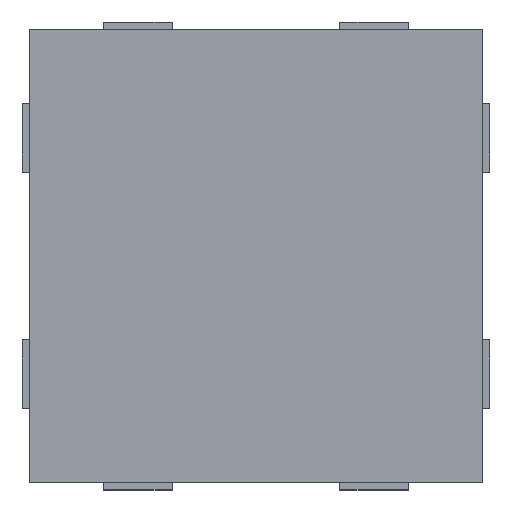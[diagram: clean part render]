
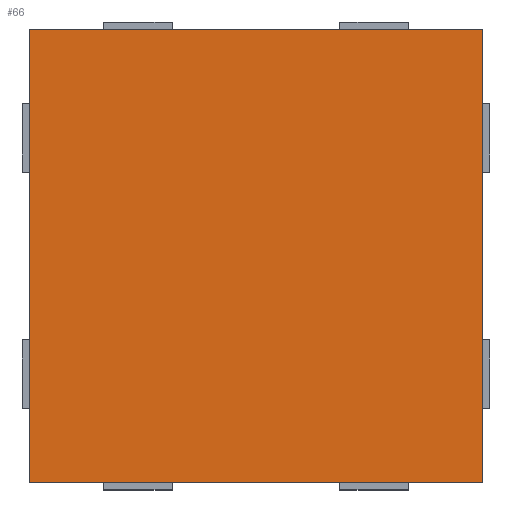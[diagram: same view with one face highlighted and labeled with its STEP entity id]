
A CAD part, top view. The second image highlights one B-rep face of the part: STEP entity #66.
In plain terms, the highlighted planar face has unit normal (0, 0, 1).
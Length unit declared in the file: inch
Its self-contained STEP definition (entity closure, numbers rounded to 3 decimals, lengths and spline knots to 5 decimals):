
#66=ADVANCED_FACE('',(#112),#716,.T.);
#112=FACE_OUTER_BOUND('',#166,.T.);
#166=EDGE_LOOP('',(#376,#377,#378,#379));
#376=ORIENTED_EDGE('',*,*,#491,.F.);
#377=ORIENTED_EDGE('',*,*,#488,.F.);
#378=ORIENTED_EDGE('',*,*,#485,.F.);
#379=ORIENTED_EDGE('',*,*,#482,.F.);
#482=EDGE_CURVE('',#666,#667,#590,.T.);
#485=EDGE_CURVE('',#667,#669,#593,.T.);
#488=EDGE_CURVE('',#669,#671,#596,.T.);
#491=EDGE_CURVE('',#671,#666,#599,.T.);
#590=B_SPLINE_CURVE_WITH_KNOTS('',1,(#1221,#1222),.UNSPECIFIED.,.F.,.F.,
(2,2),(0.,23.),.UNSPECIFIED.);
#593=B_SPLINE_CURVE_WITH_KNOTS('',1,(#1227,#1228),.UNSPECIFIED.,.F.,.F.,
(2,2),(0.,23.),.UNSPECIFIED.);
#596=B_SPLINE_CURVE_WITH_KNOTS('',1,(#1233,#1234),.UNSPECIFIED.,.F.,.F.,
(2,2),(0.,23.),.UNSPECIFIED.);
#599=B_SPLINE_CURVE_WITH_KNOTS('',1,(#1239,#1240),.UNSPECIFIED.,.F.,.F.,
(2,2),(0.,23.),.UNSPECIFIED.);
#666=VERTEX_POINT('',#1019);
#667=VERTEX_POINT('',#1020);
#669=VERTEX_POINT('',#1022);
#671=VERTEX_POINT('',#1024);
#716=PLANE('',#853);
#853=AXIS2_PLACEMENT_3D('',#951,#902,$);
#902=DIRECTION('',(0.,0.,1.));
#951=CARTESIAN_POINT('',(-13.80472,13.80472,3.));
#1019=CARTESIAN_POINT('',(11.5,11.5,3.));
#1020=CARTESIAN_POINT('',(11.5,-11.5,3.));
#1022=CARTESIAN_POINT('',(-11.5,-11.5,3.));
#1024=CARTESIAN_POINT('',(-11.5,11.5,3.));
#1221=CARTESIAN_POINT('',(11.5,11.5,3.));
#1222=CARTESIAN_POINT('',(11.5,-11.5,3.));
#1227=CARTESIAN_POINT('',(11.5,-11.5,3.));
#1228=CARTESIAN_POINT('',(-11.5,-11.5,3.));
#1233=CARTESIAN_POINT('',(-11.5,-11.5,3.));
#1234=CARTESIAN_POINT('',(-11.5,11.5,3.));
#1239=CARTESIAN_POINT('',(-11.5,11.5,3.));
#1240=CARTESIAN_POINT('',(11.5,11.5,3.));
